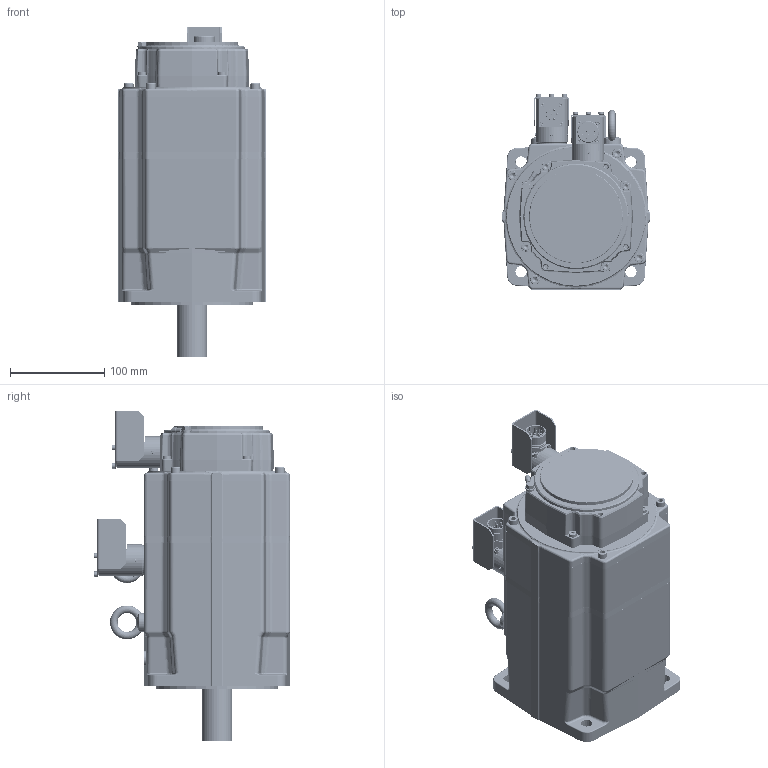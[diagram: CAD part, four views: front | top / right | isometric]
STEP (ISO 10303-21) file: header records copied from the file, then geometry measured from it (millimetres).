
FILE_DESCRIPTION((''),'2;1');
FILE_NAME('EY820EAR7310_ASM','2016-10-19T',('pf73167'),(''),'PRO/ENGINEER BY PARAMETRIC TECHNOLOGY CORPORATION, 2009400','PRO/ENGINEER BY PARAMETRIC TECHNOLOGY CORPORATION, 2009400','');
FILE_SCHEMA(('CONFIG_CONTROL_DESIGN'));
Length unit declared in the file: millimetre
Products named in the file (70): 344458P0008; 5340P0036; 5116P1319; 1150P0512; 301026P0003; 344463P0004; 344232P0001; 344212P0003; 344232P0001_ASM; 344461R0004_ASM; 5116P1327; 1711P0002; 1640P0001; 344440P0001; 344231P0002; BOB_344465R2000; 344465R2000_ASM; 344466R2000_ASM; SURMOULAGE_344467R2001; 344467R2001_ASM; 5320P0029; 1613P0081; 1613P0082; 1314P0408; 283154_08_P1F101_AF0; 283154_08_P1F501_AF0; 283154P0040_ASM; 1150P0608; 300025P0004; 345270P0012; 1643P0204; 1150P0406; 345270P0012_FILS_SONDE; 1912P0001_ENROULE; 344455P0001; 344459P0026; 5340P0071; 1150P0625; 282280P0012; 1613P0034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
Assembly tree (145 placements, depth 5):
  EY820EAR7310_ASM
    344458P0008
    5340P0036  x3
    5116P1319
    1150P0512  x3
    301026P0003
    344461R0004_ASM
      344463P0004
      344232P0001_ASM
        344232P0001
        344212P0003  x2
    5116P1327
    1711P0002
    1640P0001  x3
    344467R2001_ASM
      344440P0001
      344466R2000_ASM
        344465R2000_ASM
          344231P0002
          BOB_344465R2000
      SURMOULAGE_344467R2001
    5320P0029
    1613P0081  x2
    1613P0082  x2
    1314P0408
    283154P0040_ASM
      283154_08_P1F101_AF0
      283154_08_P1F501_AF0
    1150P0608  x4
    300025P0004
    345270P0012
    1643P0204  x2
    1150P0406  x2
    345270P0012_FILS_SONDE
    1912P0001_ENROULE  x2
    344455P0001
    344459P0026
    5340P0071
    1150P0625  x4
    282280P0012
    1613P0034  x2
    1613P0035  x2
    220005P1002
    344509P0001
    1643P0104  x3
    1143P0405  x3
    344191P0021
    1143P0510  x4
    345359R1010_800_ASM
      345359P0002
      5340P0124
      5340P0125
      1150P0204  x8
      345359P0001
      1170P0042  x4
      220132P1010_ASM
        220132P1010_0001
        220132P1010_0002
        220132P0111  x4
        220132P0120  x3
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Bounding box: 157 x 207.7 x 350.9 mm (x, y, z)
Volume: 4050113.7 mm3; surface area: 1049356.8 mm2
Topology: 144 solids, 146 shells, 6509 faces, 15330 edges, 9315 vertices
Faces by surface type: plane 2256, cylinder 1985, cone 1037, bspline 735, torus 420, sphere 66, extrusion 10
Entity records: 167345 total; most frequent: CARTESIAN_POINT 57742, ORIENTED_EDGE 22974, DIRECTION 21946, EDGE_CURVE 11487, AXIS2_PLACEMENT_3D 8208, VERTEX_POINT 7179, VECTOR 5530, LINE 5520
